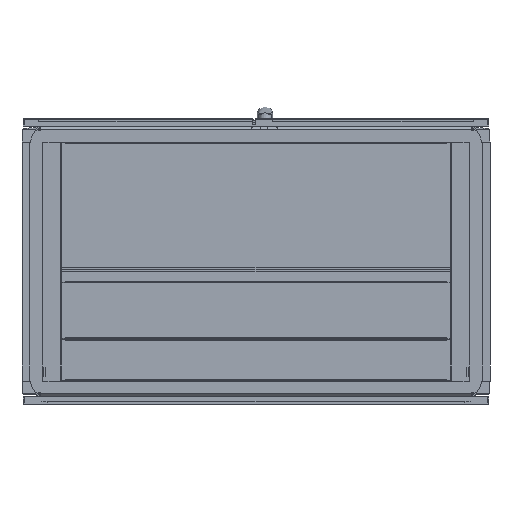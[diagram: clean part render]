
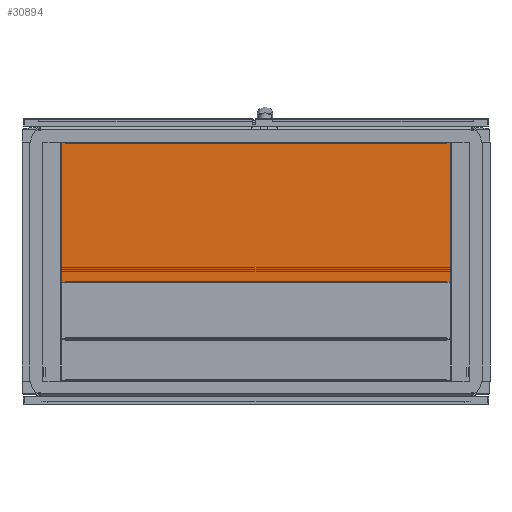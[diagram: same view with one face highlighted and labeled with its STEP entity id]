
A CAD part, front view. The second image highlights one B-rep face of the part: STEP entity #30894.
In plain terms, the highlighted planar face has unit normal (0, -1, 0).
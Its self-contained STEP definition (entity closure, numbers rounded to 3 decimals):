
#8940=ORIENTED_EDGE('',*,*,#13433,.T.);
#8941=ORIENTED_EDGE('',*,*,#13384,.T.);
#8942=ORIENTED_EDGE('',*,*,#13425,.F.);
#8943=ORIENTED_EDGE('',*,*,#13434,.F.);
#8944=ORIENTED_EDGE('',*,*,#13435,.F.);
#8945=ORIENTED_EDGE('',*,*,#13436,.F.);
#8946=ORIENTED_EDGE('',*,*,#13437,.F.);
#8947=ORIENTED_EDGE('',*,*,#13438,.F.);
#8948=ORIENTED_EDGE('',*,*,#13439,.F.);
#8949=ORIENTED_EDGE('',*,*,#13380,.T.);
#8950=ORIENTED_EDGE('',*,*,#13440,.F.);
#8951=ORIENTED_EDGE('',*,*,#13391,.F.);
#8952=ORIENTED_EDGE('',*,*,#13441,.F.);
#8953=ORIENTED_EDGE('',*,*,#13442,.F.);
#8954=ORIENTED_EDGE('',*,*,#13443,.F.);
#8955=ORIENTED_EDGE('',*,*,#13444,.F.);
#8956=ORIENTED_EDGE('',*,*,#13445,.F.);
#8957=ORIENTED_EDGE('',*,*,#13446,.F.);
#8958=ORIENTED_EDGE('',*,*,#13421,.F.);
#8959=ORIENTED_EDGE('',*,*,#13395,.F.);
#13380=EDGE_CURVE('',#16338,#16339,#20065,.T.);
#13384=EDGE_CURVE('',#16342,#16343,#20069,.T.);
#13391=EDGE_CURVE('',#16349,#16346,#20076,.T.);
#13395=EDGE_CURVE('',#16353,#16350,#20080,.T.);
#13421=EDGE_CURVE('',#16350,#16378,#20106,.T.);
#13425=EDGE_CURVE('',#16381,#16343,#20110,.T.);
#13433=EDGE_CURVE('',#16353,#16342,#20118,.T.);
#13434=EDGE_CURVE('',#16382,#16381,#20119,.T.);
#13435=EDGE_CURVE('',#16383,#16382,#20120,.T.);
#13436=EDGE_CURVE('',#16384,#16383,#20121,.T.);
#13437=EDGE_CURVE('',#16385,#16384,#20122,.T.);
#13438=EDGE_CURVE('',#16386,#16385,#20123,.T.);
#13439=EDGE_CURVE('',#16338,#16386,#20124,.T.);
#13440=EDGE_CURVE('',#16346,#16339,#20125,.T.);
#13441=EDGE_CURVE('',#16387,#16349,#20126,.T.);
#13442=EDGE_CURVE('',#16388,#16387,#20127,.T.);
#13443=EDGE_CURVE('',#16389,#16388,#20128,.T.);
#13444=EDGE_CURVE('',#16390,#16389,#20129,.T.);
#13445=EDGE_CURVE('',#16391,#16390,#20130,.T.);
#13446=EDGE_CURVE('',#16378,#16391,#20131,.T.);
#16338=VERTEX_POINT('',#51351);
#16339=VERTEX_POINT('',#51352);
#16342=VERTEX_POINT('',#51360);
#16343=VERTEX_POINT('',#51361);
#16346=VERTEX_POINT('',#51369);
#16349=VERTEX_POINT('',#51374);
#16350=VERTEX_POINT('',#51378);
#16353=VERTEX_POINT('',#51383);
#16378=VERTEX_POINT('',#51440);
#16381=VERTEX_POINT('',#51446);
#16382=VERTEX_POINT('',#51462);
#16383=VERTEX_POINT('',#51464);
#16384=VERTEX_POINT('',#51466);
#16385=VERTEX_POINT('',#51468);
#16386=VERTEX_POINT('',#51470);
#16387=VERTEX_POINT('',#51474);
#16388=VERTEX_POINT('',#51476);
#16389=VERTEX_POINT('',#51478);
#16390=VERTEX_POINT('',#51480);
#16391=VERTEX_POINT('',#51482);
#20065=LINE('',#51350,#23880);
#20069=LINE('',#51359,#23884);
#20076=LINE('',#51375,#23891);
#20080=LINE('',#51384,#23895);
#20106=LINE('',#51439,#23921);
#20110=LINE('',#51447,#23925);
#20118=LINE('',#51459,#23933);
#20119=LINE('',#51461,#23934);
#20120=LINE('',#51463,#23935);
#20121=LINE('',#51465,#23936);
#20122=LINE('',#51467,#23937);
#20123=LINE('',#51469,#23938);
#20124=LINE('',#51471,#23939);
#20125=LINE('',#51472,#23940);
#20126=LINE('',#51473,#23941);
#20127=LINE('',#51475,#23942);
#20128=LINE('',#51477,#23943);
#20129=LINE('',#51479,#23944);
#20130=LINE('',#51481,#23945);
#20131=LINE('',#51483,#23946);
#23880=VECTOR('',#42509,1000.);
#23884=VECTOR('',#42515,1000.);
#23891=VECTOR('',#42524,1000.);
#23895=VECTOR('',#42530,1000.);
#23921=VECTOR('',#42566,1000.);
#23925=VECTOR('',#42570,1000.);
#23933=VECTOR('',#42586,1000.);
#23934=VECTOR('',#42589,1000.);
#23935=VECTOR('',#42590,1000.);
#23936=VECTOR('',#42591,1000.);
#23937=VECTOR('',#42592,1000.);
#23938=VECTOR('',#42593,1000.);
#23939=VECTOR('',#42594,1000.);
#23940=VECTOR('',#42595,1000.);
#23941=VECTOR('',#42596,1000.);
#23942=VECTOR('',#42597,1000.);
#23943=VECTOR('',#42598,1000.);
#23944=VECTOR('',#42599,1000.);
#23945=VECTOR('',#42600,1000.);
#23946=VECTOR('',#42601,1000.);
#25965=EDGE_LOOP('',(#8940,#8941,#8942,#8943,#8944,#8945,#8946,#8947,#8948,
#8949,#8950,#8951,#8952,#8953,#8954,#8955,#8956,#8957,#8958,#8959));
#27867=FACE_BOUND('',#25965,.T.);
#29271=PLANE('',#34894);
#30894=ADVANCED_FACE('',(#27867),#29271,.F.);
#34894=AXIS2_PLACEMENT_3D('',#51460,#42587,#42588);
#42509=DIRECTION('',(0.,0.,1.));
#42515=DIRECTION('',(0.,0.,1.));
#42524=DIRECTION('',(0.,0.,1.));
#42530=DIRECTION('',(0.,0.,1.));
#42566=DIRECTION('',(1.,0.,0.));
#42570=DIRECTION('',(1.,0.,0.));
#42586=DIRECTION('',(-1.,0.,0.));
#42587=DIRECTION('',(0.,1.,0.));
#42588=DIRECTION('',(0.,0.,1.));
#42589=DIRECTION('',(0.,0.,1.));
#42590=DIRECTION('',(0.707,0.,0.707));
#42591=DIRECTION('',(0.,0.,1.));
#42592=DIRECTION('',(-0.707,0.,0.707));
#42593=DIRECTION('',(0.,0.,1.));
#42594=DIRECTION('',(-1.,0.,0.));
#42595=DIRECTION('',(-1.,0.,0.));
#42596=DIRECTION('',(-1.,0.,0.));
#42597=DIRECTION('',(0.,0.,-1.));
#42598=DIRECTION('',(-0.707,0.,-0.707));
#42599=DIRECTION('',(0.,0.,-1.));
#42600=DIRECTION('',(0.707,0.,-0.707));
#42601=DIRECTION('',(0.,0.,-1.));
#51350=CARTESIAN_POINT('',(-414.5,-1.,0.));
#51351=CARTESIAN_POINT('',(-414.5,-1.,-300.));
#51352=CARTESIAN_POINT('',(-414.5,-1.,-299.));
#51359=CARTESIAN_POINT('',(-414.5,-1.,0.));
#51360=CARTESIAN_POINT('',(-414.5,-1.,-1.));
#51361=CARTESIAN_POINT('',(-414.5,-1.,0.));
#51369=CARTESIAN_POINT('',(414.5,-1.,-299.));
#51374=CARTESIAN_POINT('',(414.5,-1.,-300.));
#51375=CARTESIAN_POINT('',(414.5,-1.,0.));
#51378=CARTESIAN_POINT('',(414.5,-1.,0.));
#51383=CARTESIAN_POINT('',(414.5,-1.,-1.));
#51384=CARTESIAN_POINT('',(414.5,-1.,0.));
#51439=CARTESIAN_POINT('',(-422.5,-1.,0.));
#51440=CARTESIAN_POINT('',(422.5,-1.,0.));
#51446=CARTESIAN_POINT('',(-422.5,-1.,0.));
#51447=CARTESIAN_POINT('',(-422.5,-1.,0.));
#51459=CARTESIAN_POINT('',(407.5,-1.,-1.));
#51460=CARTESIAN_POINT('',(407.5,-1.,-1.));
#51461=CARTESIAN_POINT('',(-422.5,-1.,-26.8));
#51462=CARTESIAN_POINT('',(-422.5,-1.,-26.8));
#51463=CARTESIAN_POINT('',(-433.8,-1.,-38.1));
#51464=CARTESIAN_POINT('',(-433.8,-1.,-38.1));
#51465=CARTESIAN_POINT('',(-433.8,-1.,-261.9));
#51466=CARTESIAN_POINT('',(-433.8,-1.,-261.9));
#51467=CARTESIAN_POINT('',(-422.5,-1.,-273.2));
#51468=CARTESIAN_POINT('',(-422.5,-1.,-273.2));
#51469=CARTESIAN_POINT('',(-422.5,-1.,-300.));
#51470=CARTESIAN_POINT('',(-422.5,-1.,-300.));
#51471=CARTESIAN_POINT('',(422.5,-1.,-300.));
#51472=CARTESIAN_POINT('',(407.5,-1.,-299.));
#51473=CARTESIAN_POINT('',(422.5,-1.,-300.));
#51474=CARTESIAN_POINT('',(422.5,-1.,-300.));
#51475=CARTESIAN_POINT('',(422.5,-1.,-273.2));
#51476=CARTESIAN_POINT('',(422.5,-1.,-273.2));
#51477=CARTESIAN_POINT('',(433.8,-1.,-261.9));
#51478=CARTESIAN_POINT('',(433.8,-1.,-261.9));
#51479=CARTESIAN_POINT('',(433.8,-1.,-38.1));
#51480=CARTESIAN_POINT('',(433.8,-1.,-38.1));
#51481=CARTESIAN_POINT('',(422.5,-1.,-26.8));
#51482=CARTESIAN_POINT('',(422.5,-1.,-26.8));
#51483=CARTESIAN_POINT('',(422.5,-1.,0.));
